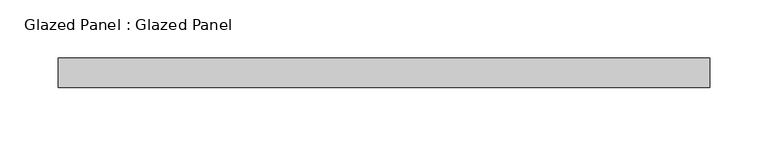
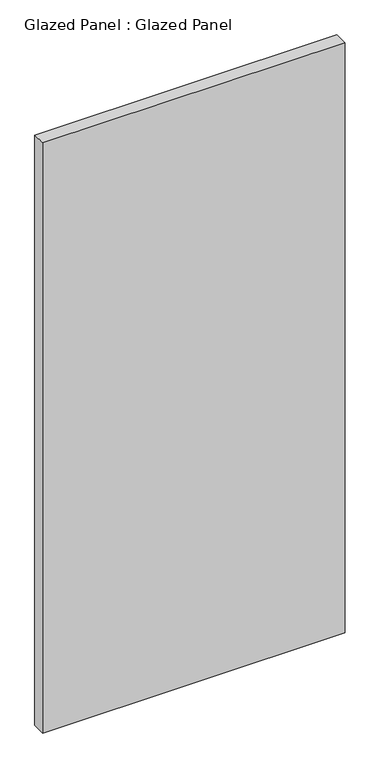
"""IFC4 building model written with IfcOpenShell, lengths in millimetres: plate geometry, Glazed Panel : Glazed Panel."""

from ifc_helpers import new_model, si_unit, origin, origin_with_axes, place, context, project, spatial, polyline, outline, extrude, source, transform, mapped, element, save


def glazed_panel_glazed_panel_43b35b37(model_context):
    return source(origin(), model_context, "Body", "SweptSolid", [
        extrude(outline(polyline([(280.19375, 38.1), (-280.19375, 38.1), (-280.19375, 63.5), (280.19375, 63.5), (280.19375, 38.1)])), origin_with_axes(), (0.0, 0.0, 1.0), 1155.7),
    ])


if __name__ == "__main__":
    model = new_model("IFC4")
    model_context = context("Model", 3, world=origin())
    ifc_project = project(units=[si_unit("LENGTHUNIT", "METRE", prefix="MILLI")], contexts=[model_context])
    site = spatial("IfcSite", under=ifc_project)
    building = spatial("IfcBuilding", under=site)
    placement = place(None, origin())
    glazed_panel_glazed_panel_shape = glazed_panel_glazed_panel_43b35b37(model_context)
    element("IfcPlate", 1, ObjectType="Glazed Panel : Glazed Panel", at=placement, inside=building, context=model_context, shape_type="MappedRepresentation", body=[
        mapped(glazed_panel_glazed_panel_shape, transform((0.0, 0.0, 0.0), x_axis=(1.0, 0.0, 0.0), y_axis=(0.0, 1.0, 0.0), z_axis=(0.0, 0.0, 1.0))),
    ])
    save(model, "model.ifc")
